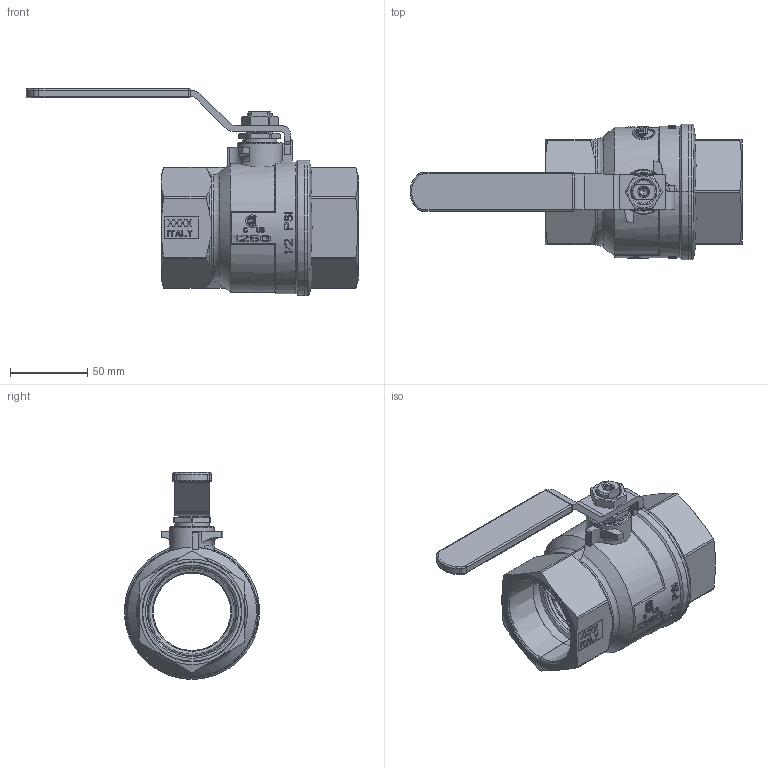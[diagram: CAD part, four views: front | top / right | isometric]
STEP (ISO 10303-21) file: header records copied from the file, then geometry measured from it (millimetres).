
FILE_DESCRIPTION(('Open CASCADE Model'),'2;1');
FILE_NAME('Open CASCADE Shape Model','2021-11-22T11:27:00',('Author'),( 'Open CASCADE'),'Open CASCADE STEP processor 7.3','Open CASCADE 7.3' ,'Unknown');
FILE_SCHEMA(('AUTOMOTIVE_DESIGN { 1 0 10303 214 1 1 1 1 }'));
Length unit declared in the file: millimetre
Products named in the file (24): Open CASCADE STEP translator 7.3 1; Open CASCADE STEP translator 7.3 1.1; Open CASCADE STEP translator 7.3 1.2; Open CASCADE STEP translator 7.3 1.3; Open CASCADE STEP translator 7.3 1.4; Open CASCADE STEP translator 7.3 1.5; Open CASCADE STEP translator 7.3 1.6; Open CASCADE STEP translator 7.3 1.7; Open CASCADE STEP translator 7.3 1.8; Open CASCADE STEP translator 7.3 1.9; Open CASCADE STEP translator 7.3 1.10; Open CASCADE STEP translator 7.3 1.11; Open CASCADE STEP translator 7.3 1.12; Open CASCADE STEP translator 7.3 1.13; Open CASCADE STEP translator 7.3 1.14; Open CASCADE STEP translator 7.3 1.15; Open CASCADE STEP translator 7.3 1.16; Open CASCADE STEP translator 7.3 1.17; Open CASCADE STEP translator 7.3 1.18; Open CASCADE STEP translator 7.3 1.19; Open CASCADE STEP translator 7.3 1.20; Open CASCADE STEP translator 7.3 1.21; Open CASCADE STEP translator 7.3 1.22; Open CASCADE STEP translator 7.3 1.23
Assembly tree (23 placements, depth 2):
  Open CASCADE STEP translator 7.3 1
    Open CASCADE STEP translator 7.3 1.1
    Open CASCADE STEP translator 7.3 1.2
    Open CASCADE STEP translator 7.3 1.3
    Open CASCADE STEP translator 7.3 1.4
    Open CASCADE STEP translator 7.3 1.5
    Open CASCADE STEP translator 7.3 1.6
    Open CASCADE STEP translator 7.3 1.7
    Open CASCADE STEP translator 7.3 1.8
    Open CASCADE STEP translator 7.3 1.9
    Open CASCADE STEP translator 7.3 1.10
    Open CASCADE STEP translator 7.3 1.11
    Open CASCADE STEP translator 7.3 1.12
    Open CASCADE STEP translator 7.3 1.13
    Open CASCADE STEP translator 7.3 1.14
    Open CASCADE STEP translator 7.3 1.15
    Open CASCADE STEP translator 7.3 1.16
    Open CASCADE STEP translator 7.3 1.17
    Open CASCADE STEP translator 7.3 1.18
    Open CASCADE STEP translator 7.3 1.19
    Open CASCADE STEP translator 7.3 1.20
    Open CASCADE STEP translator 7.3 1.21
    Open CASCADE STEP translator 7.3 1.22
    Open CASCADE STEP translator 7.3 1.23
Bounding box: 214.5 x 87.5 x 133.75 mm (x, y, z)
Volume: 278625.8 mm3; surface area: 167340.7 mm2
Topology: 13 solids, 23 shells, 1898 faces, 5172 edges, 3373 vertices
Faces by surface type: plane 1205, bspline 270, cylinder 201, cone 124, torus 74, revolution 16, sphere 8
Entity records: 148489 total; most frequent: CARTESIAN_POINT 53017, DIRECTION 14980, ORIENTED_EDGE 10278, PCURVE 10278, DEFINITIONAL_REPRESENTATION 10278, LINE 9671, VECTOR 9671, EDGE_CURVE 5166
